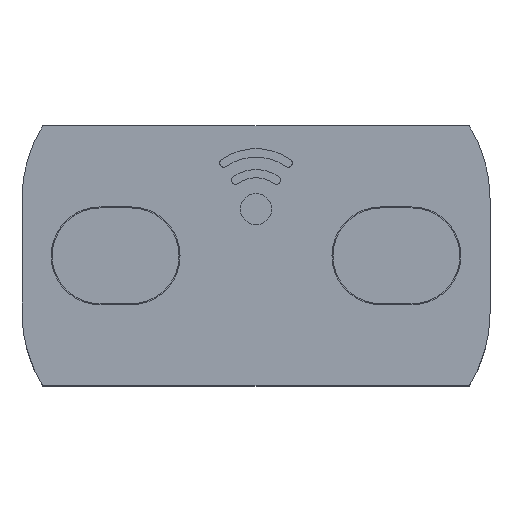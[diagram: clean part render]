
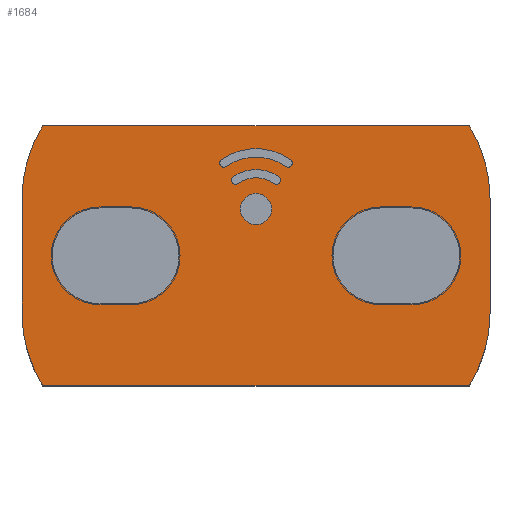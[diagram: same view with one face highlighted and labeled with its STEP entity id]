
A CAD part, top view. The second image highlights one B-rep face of the part: STEP entity #1684.
In plain terms, the highlighted planar face has unit normal (0, 0, 1).
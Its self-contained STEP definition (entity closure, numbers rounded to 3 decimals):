
#265=FACE_BOUND('',#2647,.T.);
#266=FACE_BOUND('',#2648,.T.);
#267=FACE_BOUND('',#2649,.T.);
#268=FACE_BOUND('',#2650,.T.);
#269=FACE_BOUND('',#2651,.T.);
#270=FACE_BOUND('',#2652,.T.);
#493=LINE('',#9290,#1053);
#497=LINE('',#9300,#1057);
#539=LINE('',#9434,#1099);
#559=LINE('',#9491,#1119);
#563=LINE('',#9501,#1123);
#602=LINE('',#9624,#1162);
#606=LINE('',#9636,#1166);
#620=LINE('',#9672,#1180);
#1053=VECTOR('',#7340,1.);
#1057=VECTOR('',#7350,1.);
#1099=VECTOR('',#7478,1.);
#1119=VECTOR('',#7544,1.);
#1123=VECTOR('',#7554,1.);
#1162=VECTOR('',#7673,1.);
#1166=VECTOR('',#7685,1.);
#1180=VECTOR('',#7729,1.);
#1684=ADVANCED_FACE('',(#265,#266,#267,#268,#269,#270),#2038,.T.);
#2038=PLANE('',#6711);
#2647=EDGE_LOOP('',(#3420,#3421,#3422,#3423));
#2648=EDGE_LOOP('',(#3424,#3425,#3426,#3427));
#2649=EDGE_LOOP('',(#3428,#3429,#3430,#3431,#3432,#3433,#3434,#3435));
#2650=EDGE_LOOP('',(#3436));
#2651=EDGE_LOOP('',(#3437,#3438,#3439,#3440));
#2652=EDGE_LOOP('',(#3441,#3442,#3443,#3444));
#3420=ORIENTED_EDGE('',*,*,#5379,.F.);
#3421=ORIENTED_EDGE('',*,*,#5382,.F.);
#3422=ORIENTED_EDGE('',*,*,#5384,.F.);
#3423=ORIENTED_EDGE('',*,*,#5580,.F.);
#3424=ORIENTED_EDGE('',*,*,#5479,.T.);
#3425=ORIENTED_EDGE('',*,*,#5581,.T.);
#3426=ORIENTED_EDGE('',*,*,#5484,.T.);
#3427=ORIENTED_EDGE('',*,*,#5482,.T.);
#3428=ORIENTED_EDGE('',*,*,#5553,.T.);
#3429=ORIENTED_EDGE('',*,*,#5550,.T.);
#3430=ORIENTED_EDGE('',*,*,#5547,.T.);
#3431=ORIENTED_EDGE('',*,*,#5544,.T.);
#3432=ORIENTED_EDGE('',*,*,#5445,.F.);
#3433=ORIENTED_EDGE('',*,*,#5449,.F.);
#3434=ORIENTED_EDGE('',*,*,#5452,.F.);
#3435=ORIENTED_EDGE('',*,*,#5570,.T.);
#3436=ORIENTED_EDGE('',*,*,#5582,.F.);
#3437=ORIENTED_EDGE('',*,*,#5346,.F.);
#3438=ORIENTED_EDGE('',*,*,#5343,.F.);
#3439=ORIENTED_EDGE('',*,*,#5583,.F.);
#3440=ORIENTED_EDGE('',*,*,#5340,.F.);
#3441=ORIENTED_EDGE('',*,*,#5335,.F.);
#3442=ORIENTED_EDGE('',*,*,#5332,.F.);
#3443=ORIENTED_EDGE('',*,*,#5584,.F.);
#3444=ORIENTED_EDGE('',*,*,#5329,.F.);
#4777=VERTEX_POINT('',#9185);
#4778=VERTEX_POINT('',#9186);
#4779=VERTEX_POINT('',#9191);
#4780=VERTEX_POINT('',#9192);
#4785=VERTEX_POINT('',#9208);
#4786=VERTEX_POINT('',#9209);
#4787=VERTEX_POINT('',#9214);
#4788=VERTEX_POINT('',#9215);
#4815=VERTEX_POINT('',#9291);
#4816=VERTEX_POINT('',#9292);
#4817=VERTEX_POINT('',#9297);
#4818=VERTEX_POINT('',#9301);
#4863=VERTEX_POINT('',#9425);
#4864=VERTEX_POINT('',#9427);
#4866=VERTEX_POINT('',#9433);
#4868=VERTEX_POINT('',#9439);
#4881=VERTEX_POINT('',#9492);
#4882=VERTEX_POINT('',#9493);
#4883=VERTEX_POINT('',#9498);
#4884=VERTEX_POINT('',#9502);
#4928=VERTEX_POINT('',#9625);
#4930=VERTEX_POINT('',#9631);
#4932=VERTEX_POINT('',#9637);
#4934=VERTEX_POINT('',#9643);
#4940=VERTEX_POINT('',#9691);
#5329=EDGE_CURVE('',#4777,#4778,#6225,.T.);
#5332=EDGE_CURVE('',#4779,#4780,#6226,.T.);
#5335=EDGE_CURVE('',#4780,#4777,#6227,.T.);
#5340=EDGE_CURVE('',#4785,#4786,#6232,.T.);
#5343=EDGE_CURVE('',#4787,#4788,#6233,.T.);
#5346=EDGE_CURVE('',#4788,#4785,#6234,.T.);
#5379=EDGE_CURVE('',#4815,#4816,#493,.T.);
#5382=EDGE_CURVE('',#4817,#4815,#6255,.T.);
#5384=EDGE_CURVE('',#4818,#4817,#497,.T.);
#5445=EDGE_CURVE('',#4863,#4864,#6274,.T.);
#5449=EDGE_CURVE('',#4866,#4863,#539,.T.);
#5452=EDGE_CURVE('',#4868,#4866,#6276,.T.);
#5479=EDGE_CURVE('',#4881,#4882,#559,.T.);
#5482=EDGE_CURVE('',#4883,#4881,#6281,.T.);
#5484=EDGE_CURVE('',#4884,#4883,#563,.T.);
#5544=EDGE_CURVE('',#4928,#4864,#602,.T.);
#5547=EDGE_CURVE('',#4930,#4928,#6300,.T.);
#5550=EDGE_CURVE('',#4932,#4930,#606,.T.);
#5553=EDGE_CURVE('',#4934,#4932,#6302,.T.);
#5570=EDGE_CURVE('',#4868,#4934,#620,.T.);
#5580=EDGE_CURVE('',#4816,#4818,#6308,.T.);
#5581=EDGE_CURVE('',#4882,#4884,#6309,.T.);
#5582=EDGE_CURVE('',#4940,#4940,#6310,.T.);
#5583=EDGE_CURVE('',#4786,#4787,#6311,.T.);
#5584=EDGE_CURVE('',#4778,#4779,#6312,.T.);
#6225=CIRCLE('',#6517,5.);
#6226=CIRCLE('',#6519,5.8);
#6227=CIRCLE('',#6521,0.4);
#6232=CIRCLE('',#6528,3.);
#6233=CIRCLE('',#6530,3.8);
#6234=CIRCLE('',#6532,0.4);
#6255=CIRCLE('',#6566,4.6);
#6274=CIRCLE('',#6609,13.25);
#6276=CIRCLE('',#6613,13.25);
#6281=CIRCLE('',#6635,4.6);
#6300=CIRCLE('',#6679,13.25);
#6302=CIRCLE('',#6683,13.25);
#6308=CIRCLE('',#6706,4.6);
#6309=CIRCLE('',#6707,4.6);
#6310=CIRCLE('',#6708,1.5);
#6311=CIRCLE('',#6709,0.4);
#6312=CIRCLE('',#6710,0.4);
#6517=AXIS2_PLACEMENT_3D('',#9184,#7224,#7225);
#6519=AXIS2_PLACEMENT_3D('',#9190,#7230,#7231);
#6521=AXIS2_PLACEMENT_3D('',#9196,#7236,#7237);
#6528=AXIS2_PLACEMENT_3D('',#9207,#7250,#7251);
#6530=AXIS2_PLACEMENT_3D('',#9213,#7256,#7257);
#6532=AXIS2_PLACEMENT_3D('',#9219,#7262,#7263);
#6566=AXIS2_PLACEMENT_3D('',#9296,#7345,#7346);
#6609=AXIS2_PLACEMENT_3D('',#9426,#7471,#7472);
#6613=AXIS2_PLACEMENT_3D('',#9440,#7484,#7485);
#6635=AXIS2_PLACEMENT_3D('',#9497,#7549,#7550);
#6679=AXIS2_PLACEMENT_3D('',#9630,#7679,#7680);
#6683=AXIS2_PLACEMENT_3D('',#9642,#7691,#7692);
#6706=AXIS2_PLACEMENT_3D('',#9688,#7754,#7755);
#6707=AXIS2_PLACEMENT_3D('',#9689,#7756,#7757);
#6708=AXIS2_PLACEMENT_3D('',#9690,#7758,#7759);
#6709=AXIS2_PLACEMENT_3D('',#9692,#7760,#7761);
#6710=AXIS2_PLACEMENT_3D('',#9693,#7762,#7763);
#6711=AXIS2_PLACEMENT_3D('',#9694,#7764,#7765);
#7224=DIRECTION('',(0.,0.,-1.));
#7225=DIRECTION('',(1.,0.,0.));
#7230=DIRECTION('',(0.,0.,1.));
#7231=DIRECTION('',(1.,0.,0.));
#7236=DIRECTION('',(0.,0.,1.));
#7237=DIRECTION('',(1.,0.,0.));
#7250=DIRECTION('',(0.,0.,-1.));
#7251=DIRECTION('',(1.,0.,0.));
#7256=DIRECTION('',(0.,0.,1.));
#7257=DIRECTION('',(1.,0.,0.));
#7262=DIRECTION('',(0.,0.,1.));
#7263=DIRECTION('',(1.,0.,0.));
#7340=DIRECTION('',(-1.,0.,0.));
#7345=DIRECTION('',(0.,0.,1.));
#7346=DIRECTION('',(1.,0.,0.));
#7350=DIRECTION('',(1.,0.,0.));
#7471=DIRECTION('',(0.,0.,-1.));
#7472=DIRECTION('',(-1.,0.,0.));
#7478=DIRECTION('',(0.,1.,0.));
#7484=DIRECTION('',(0.,0.,-1.));
#7485=DIRECTION('',(-1.,0.,0.));
#7544=DIRECTION('',(1.,0.,0.));
#7549=DIRECTION('',(0.,0.,-1.));
#7550=DIRECTION('',(1.,0.,0.));
#7554=DIRECTION('',(-1.,0.,0.));
#7673=DIRECTION('',(-1.,0.,0.));
#7679=DIRECTION('',(0.,0.,1.));
#7680=DIRECTION('',(1.,0.,0.));
#7685=DIRECTION('',(0.,1.,0.));
#7691=DIRECTION('',(0.,0.,1.));
#7692=DIRECTION('',(1.,0.,0.));
#7729=DIRECTION('',(1.,0.,0.));
#7754=DIRECTION('',(0.,0.,1.));
#7755=DIRECTION('',(1.,0.,0.));
#7756=DIRECTION('',(0.,0.,-1.));
#7757=DIRECTION('',(-1.,0.,0.));
#7758=DIRECTION('',(0.,0.,1.));
#7759=DIRECTION('',(1.,0.,0.));
#7760=DIRECTION('',(0.,0.,1.));
#7761=DIRECTION('',(-1.,0.,0.));
#7762=DIRECTION('',(0.,0.,1.));
#7763=DIRECTION('',(1.,0.,0.));
#7764=DIRECTION('',(0.,0.,1.));
#7765=DIRECTION('',(-1.,0.,0.));
#9184=CARTESIAN_POINT('',(0.,4.5,9.));
#9185=CARTESIAN_POINT('',(-2.868,8.596,9.));
#9186=CARTESIAN_POINT('',(2.868,8.596,9.));
#9190=CARTESIAN_POINT('',(0.,4.5,9.));
#9191=CARTESIAN_POINT('',(3.327,9.251,9.));
#9192=CARTESIAN_POINT('',(-3.327,9.251,9.));
#9196=CARTESIAN_POINT('',(-3.097,8.923,9.));
#9207=CARTESIAN_POINT('',(0.,4.5,9.));
#9208=CARTESIAN_POINT('',(-1.721,6.957,9.));
#9209=CARTESIAN_POINT('',(1.721,6.957,9.));
#9213=CARTESIAN_POINT('',(0.,4.5,9.));
#9214=CARTESIAN_POINT('',(2.18,7.613,9.));
#9215=CARTESIAN_POINT('',(-2.18,7.613,9.));
#9219=CARTESIAN_POINT('',(-1.95,7.285,9.));
#9290=CARTESIAN_POINT('',(15.,4.6,9.));
#9291=CARTESIAN_POINT('',(-12.,4.6,9.));
#9292=CARTESIAN_POINT('',(-15.,4.6,9.));
#9296=CARTESIAN_POINT('',(-12.,0.,9.));
#9297=CARTESIAN_POINT('',(-12.,-4.6,9.));
#9300=CARTESIAN_POINT('',(15.,-4.6,9.));
#9301=CARTESIAN_POINT('',(-15.,-4.6,9.));
#9425=CARTESIAN_POINT('',(-22.5,5.5,9.));
#9426=CARTESIAN_POINT('',(-9.25,5.5,9.));
#9427=CARTESIAN_POINT('',(-20.5,12.5,9.));
#9433=CARTESIAN_POINT('',(-22.5,-5.5,9.));
#9434=CARTESIAN_POINT('',(-22.5,-5.5,9.));
#9439=CARTESIAN_POINT('',(-20.5,-12.5,9.));
#9440=CARTESIAN_POINT('',(-9.25,-5.5,9.));
#9491=CARTESIAN_POINT('',(9.25,4.6,9.));
#9492=CARTESIAN_POINT('',(12.,4.6,9.));
#9493=CARTESIAN_POINT('',(15.,4.6,9.));
#9497=CARTESIAN_POINT('',(12.,0.,9.));
#9498=CARTESIAN_POINT('',(12.,-4.6,9.));
#9501=CARTESIAN_POINT('',(9.25,-4.6,9.));
#9502=CARTESIAN_POINT('',(15.,-4.6,9.));
#9624=CARTESIAN_POINT('',(20.5,12.5,9.));
#9625=CARTESIAN_POINT('',(20.5,12.5,9.));
#9630=CARTESIAN_POINT('',(9.25,5.5,9.));
#9631=CARTESIAN_POINT('',(22.5,5.5,9.));
#9636=CARTESIAN_POINT('',(22.5,-5.5,9.));
#9637=CARTESIAN_POINT('',(22.5,-5.5,9.));
#9642=CARTESIAN_POINT('',(9.25,-5.5,9.));
#9643=CARTESIAN_POINT('',(20.5,-12.5,9.));
#9672=CARTESIAN_POINT('',(0.,-12.5,9.));
#9688=CARTESIAN_POINT('',(-15.,0.,9.));
#9689=CARTESIAN_POINT('',(15.,0.,9.));
#9690=CARTESIAN_POINT('',(0.,4.5,9.));
#9691=CARTESIAN_POINT('',(1.5,4.5,9.));
#9692=CARTESIAN_POINT('',(1.95,7.285,9.));
#9693=CARTESIAN_POINT('',(3.097,8.923,9.));
#9694=CARTESIAN_POINT('',(9.25,-5.5,9.));
